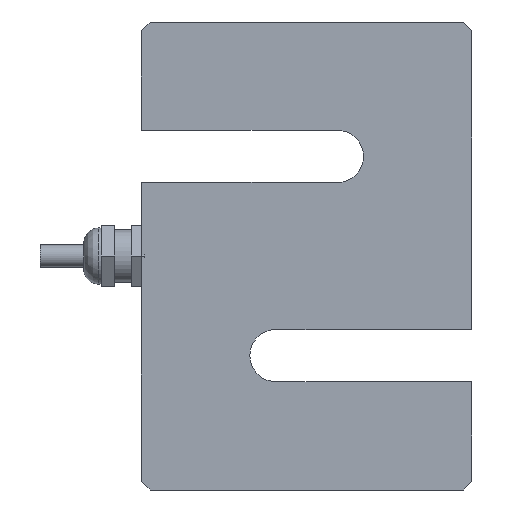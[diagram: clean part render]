
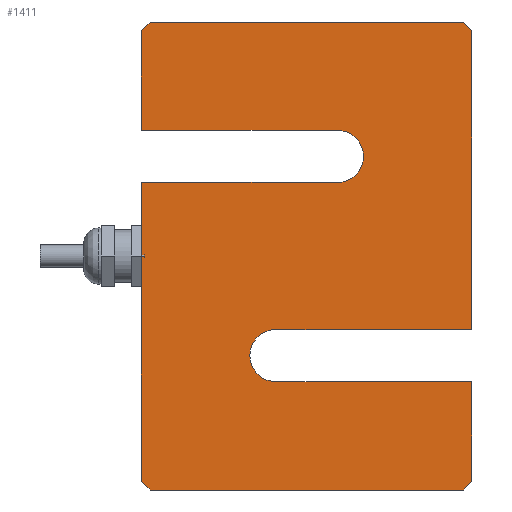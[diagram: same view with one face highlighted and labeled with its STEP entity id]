
A CAD part, front view. The second image highlights one B-rep face of the part: STEP entity #1411.
In plain terms, the highlighted planar face has unit normal (0, -1, 0).
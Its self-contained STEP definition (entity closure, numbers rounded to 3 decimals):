
#135=PLANE('',#1545);
#211=FACE_OUTER_BOUND('',#306,.T.);
#306=EDGE_LOOP('',(#1191,#1192,#1193,#1194,#1195,#1196,#1197,#1198,#1199,
#1200,#1201,#1202,#1203,#1204,#1205,#1206));
#404=LINE('',#3169,#515);
#407=LINE('',#3177,#518);
#409=LINE('',#3181,#520);
#412=LINE('',#3187,#523);
#415=LINE('',#3195,#526);
#417=LINE('',#3199,#528);
#419=LINE('',#3203,#530);
#421=LINE('',#3209,#532);
#423=LINE('',#3213,#534);
#424=LINE('',#3466,#535);
#426=LINE('',#3470,#537);
#428=LINE('',#3474,#539);
#429=LINE('',#3477,#540);
#430=LINE('',#3478,#541);
#515=VECTOR('',#1812,10.);
#518=VECTOR('',#1821,10.);
#520=VECTOR('',#1825,10.);
#523=VECTOR('',#1830,10.);
#526=VECTOR('',#1839,10.);
#528=VECTOR('',#1843,10.);
#530=VECTOR('',#1847,10.);
#532=VECTOR('',#1853,10.);
#534=VECTOR('',#1857,10.);
#535=VECTOR('',#1860,10.);
#537=VECTOR('',#1864,10.);
#539=VECTOR('',#1868,10.);
#540=VECTOR('',#1871,10.);
#541=VECTOR('',#1872,10.);
#572=CIRCLE('',#1530,6.);
#573=CIRCLE('',#1535,6.);
#689=VERTEX_POINT('',#3165);
#690=VERTEX_POINT('',#3167);
#691=VERTEX_POINT('',#3171);
#692=VERTEX_POINT('',#3175);
#693=VERTEX_POINT('',#3179);
#694=VERTEX_POINT('',#3183);
#695=VERTEX_POINT('',#3185);
#696=VERTEX_POINT('',#3189);
#697=VERTEX_POINT('',#3193);
#698=VERTEX_POINT('',#3197);
#699=VERTEX_POINT('',#3201);
#701=VERTEX_POINT('',#3207);
#702=VERTEX_POINT('',#3211);
#703=VERTEX_POINT('',#3468);
#704=VERTEX_POINT('',#3472);
#705=VERTEX_POINT('',#3476);
#857=EDGE_CURVE('',#689,#690,#404,.T.);
#859=EDGE_CURVE('',#691,#689,#572,.T.);
#861=EDGE_CURVE('',#692,#691,#407,.T.);
#863=EDGE_CURVE('',#693,#692,#409,.T.);
#866=EDGE_CURVE('',#694,#695,#412,.T.);
#868=EDGE_CURVE('',#696,#694,#573,.T.);
#870=EDGE_CURVE('',#697,#696,#415,.T.);
#872=EDGE_CURVE('',#698,#697,#417,.T.);
#874=EDGE_CURVE('',#695,#699,#419,.T.);
#877=EDGE_CURVE('',#701,#699,#421,.T.);
#879=EDGE_CURVE('',#701,#702,#423,.T.);
#882=EDGE_CURVE('',#693,#702,#424,.T.);
#884=EDGE_CURVE('',#690,#703,#426,.T.);
#886=EDGE_CURVE('',#704,#703,#428,.T.);
#887=EDGE_CURVE('',#698,#705,#429,.T.);
#888=EDGE_CURVE('',#704,#705,#430,.T.);
#1191=ORIENTED_EDGE('',*,*,#887,.F.);
#1192=ORIENTED_EDGE('',*,*,#872,.T.);
#1193=ORIENTED_EDGE('',*,*,#870,.T.);
#1194=ORIENTED_EDGE('',*,*,#868,.T.);
#1195=ORIENTED_EDGE('',*,*,#866,.T.);
#1196=ORIENTED_EDGE('',*,*,#874,.T.);
#1197=ORIENTED_EDGE('',*,*,#877,.F.);
#1198=ORIENTED_EDGE('',*,*,#879,.T.);
#1199=ORIENTED_EDGE('',*,*,#882,.F.);
#1200=ORIENTED_EDGE('',*,*,#863,.T.);
#1201=ORIENTED_EDGE('',*,*,#861,.T.);
#1202=ORIENTED_EDGE('',*,*,#859,.T.);
#1203=ORIENTED_EDGE('',*,*,#857,.T.);
#1204=ORIENTED_EDGE('',*,*,#884,.T.);
#1205=ORIENTED_EDGE('',*,*,#886,.F.);
#1206=ORIENTED_EDGE('',*,*,#888,.T.);
#1411=ADVANCED_FACE('',(#211),#135,.F.);
#1530=AXIS2_PLACEMENT_3D('',#3173,#1816,#1817);
#1535=AXIS2_PLACEMENT_3D('',#3191,#1834,#1835);
#1545=AXIS2_PLACEMENT_3D('',#3475,#1869,#1870);
#1812=DIRECTION('',(1.,0.,0.));
#1816=DIRECTION('center_axis',(0.,1.,0.));
#1817=DIRECTION('ref_axis',(0.,0.,-1.));
#1821=DIRECTION('',(-1.,0.,0.));
#1825=DIRECTION('',(0.,0.,1.));
#1830=DIRECTION('',(-1.,0.,0.));
#1834=DIRECTION('center_axis',(0.,1.,0.));
#1835=DIRECTION('ref_axis',(0.,0.,1.));
#1839=DIRECTION('',(1.,0.,0.));
#1843=DIRECTION('',(0.,0.,-1.));
#1847=DIRECTION('',(0.,0.,-1.));
#1853=DIRECTION('',(-0.707,0.,0.707));
#1857=DIRECTION('',(1.,0.,0.));
#1860=DIRECTION('',(-0.707,0.,-0.707));
#1864=DIRECTION('',(0.,0.,1.));
#1868=DIRECTION('',(0.707,0.,-0.707));
#1869=DIRECTION('center_axis',(0.,1.,0.));
#1870=DIRECTION('ref_axis',(1.,0.,0.));
#1871=DIRECTION('',(0.707,0.,0.707));
#1872=DIRECTION('',(-1.,0.,0.));
#3165=CARTESIAN_POINT('',(-7.1,-12.7,-16.975));
#3167=CARTESIAN_POINT('',(38.1,-12.7,-16.975));
#3169=CARTESIAN_POINT('',(38.1,-12.7,-16.975));
#3171=CARTESIAN_POINT('',(-7.1,-12.7,-28.975));
#3173=CARTESIAN_POINT('Origin',(-7.1,-12.7,-22.975));
#3175=CARTESIAN_POINT('',(38.1,-12.7,-28.975));
#3177=CARTESIAN_POINT('',(38.1,-12.7,-28.975));
#3179=CARTESIAN_POINT('',(38.1,-12.7,-51.975));
#3181=CARTESIAN_POINT('',(38.1,-12.7,-53.975));
#3183=CARTESIAN_POINT('',(7.1,-12.7,16.975));
#3185=CARTESIAN_POINT('',(-38.1,-12.7,16.975));
#3187=CARTESIAN_POINT('',(-38.1,-12.7,16.975));
#3189=CARTESIAN_POINT('',(7.1,-12.7,28.975));
#3191=CARTESIAN_POINT('Origin',(7.1,-12.7,22.975));
#3193=CARTESIAN_POINT('',(-38.1,-12.7,28.975));
#3195=CARTESIAN_POINT('',(-38.1,-12.7,28.975));
#3197=CARTESIAN_POINT('',(-38.1,-12.7,51.975));
#3199=CARTESIAN_POINT('',(-38.1,-12.7,53.975));
#3201=CARTESIAN_POINT('',(-38.1,-12.7,-51.975));
#3203=CARTESIAN_POINT('',(-38.1,-12.7,53.975));
#3207=CARTESIAN_POINT('',(-36.1,-12.7,-53.975));
#3209=CARTESIAN_POINT('',(-41.069,-12.7,-49.006));
#3211=CARTESIAN_POINT('',(36.1,-12.7,-53.975));
#3213=CARTESIAN_POINT('',(-38.1,-12.7,-53.975));
#3466=CARTESIAN_POINT('',(41.069,-12.7,-49.006));
#3468=CARTESIAN_POINT('',(38.1,-12.7,51.975));
#3470=CARTESIAN_POINT('',(38.1,-12.7,-53.975));
#3472=CARTESIAN_POINT('',(36.1,-12.7,53.975));
#3474=CARTESIAN_POINT('',(41.069,-12.7,49.006));
#3475=CARTESIAN_POINT('Origin',(0.,-12.7,0.));
#3476=CARTESIAN_POINT('',(-36.1,-12.7,53.975));
#3477=CARTESIAN_POINT('',(-41.069,-12.7,49.006));
#3478=CARTESIAN_POINT('',(38.1,-12.7,53.975));
